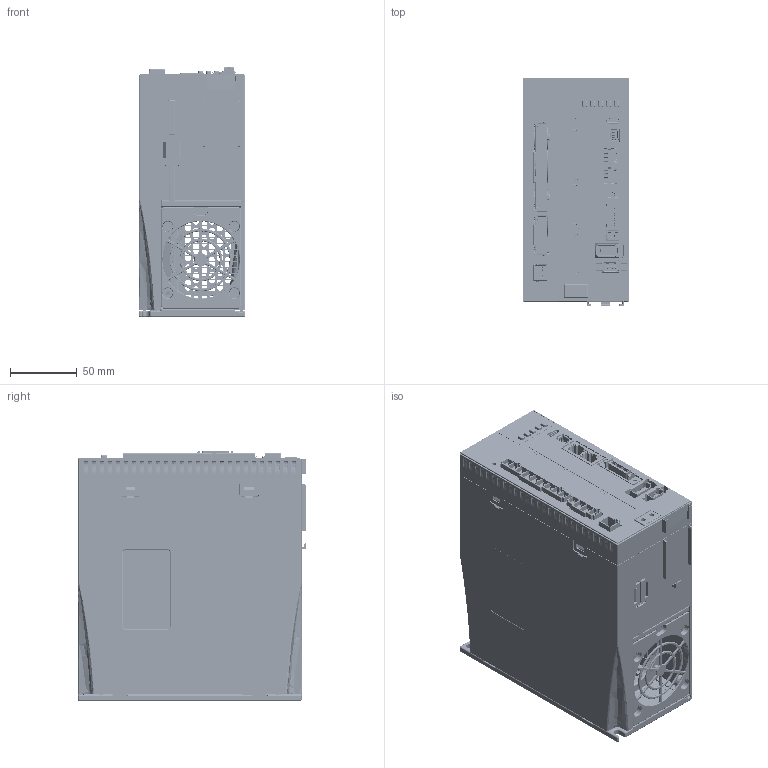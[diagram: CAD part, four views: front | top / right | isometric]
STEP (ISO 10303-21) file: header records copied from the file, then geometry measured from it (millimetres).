
FILE_DESCRIPTION((''),'2;1');
FILE_NAME('ASM0001_L8_2K_ASM_101_ASM','2022-12-14T',('Administrator'),(''),'PRO/ENGINEER BY PARAMETRIC TECHNOLOGY CORPORATION, 2010280','PRO/ENGINEER BY PARAMETRIC TECHNOLOGY CORPORATION, 2010280','');
FILE_SCHEMA(('CONFIG_CONTROL_DESIGN','SHAPE_APPEARANCE_LAYERS_GROUPS'));
Products named in the file (33): DB_L8_2000_70; PCB_L8_2K_24; 9EDGRC_7_5_09P_1000A_2_2; 9EDGRC_7_5_04P_1000A_2_2; CN-5-0-1X2-16-2X18-1_3_1; TR-27X33-1_2_2; TR-27X33-2_2_2; TR-27X33-ALL_ASM_1_ASM_2_ASM; TR-27X33-ALL_ASM_ASM_2_ASM; PCB_POWER_L8_2K_ASM_6_ASM; PCB_L8D2_57_1; USB-J-TP16-3U10_10_1; MINI-IO-0-635-TYPE1_3_1; CON24-RJ45-2-54_8_1; SC-MCR26S90_4_1; SC-MCR10S90_5_1; 1394-6P_4_1; C-RJ10_4_1; 00000_4_1; KEY-PCB_12_1; PCB_L8D2_ASM_66_ASM_2_ASM; PCB_ALL_L8_2K_ASM_5_ASM; FAN_ASM_1_ASM; SRQ_L8_2K_10; GB_FAN_2_8; DRZJ_L8_2K_15; F_L8_2K_20; L8-400-KEY-CAP_30_1; L8-400-YKL_42_1; R_L8_2K_1_39; L_L8_2K_20220726_6; RXLB_80W_50RJ_1; ASM0001_L8_2K_ASM_101_ASM
Assembly tree (33 placements, depth 6):
  ASM0001_L8_2K_ASM_101_ASM
    DB_L8_2000_70
    PCB_ALL_L8_2K_ASM_5_ASM
      PCB_POWER_L8_2K_ASM_6_ASM
        PCB_L8_2K_24
        9EDGRC_7_5_09P_1000A_2_2
        9EDGRC_7_5_04P_1000A_2_2
        CN-5-0-1X2-16-2X18-1_3_1
        TR-27X33-ALL_ASM_ASM_2_ASM
          TR-27X33-ALL_ASM_1_ASM_2_ASM
            TR-27X33-1_2_2  x2
            TR-27X33-2_2_2
      PCB_L8D2_ASM_66_ASM_2_ASM
        PCB_L8D2_57_1
        USB-J-TP16-3U10_10_1
        MINI-IO-0-635-TYPE1_3_1
        CON24-RJ45-2-54_8_1
        SC-MCR26S90_4_1
        SC-MCR10S90_5_1
        1394-6P_4_1
        C-RJ10_4_1
        00000_4_1
        KEY-PCB_12_1
    FAN_ASM_1_ASM
    SRQ_L8_2K_10
    GB_FAN_2_8
    DRZJ_L8_2K_15
    F_L8_2K_20
    L8-400-KEY-CAP_30_1
    L8-400-YKL_42_1
    R_L8_2K_1_39
    L_L8_2K_20220726_6
    RXLB_80W_50RJ_1
Bounding box: 80 x 171.2 x 188 mm (x, y, z)
Volume: 802875.2 mm3; surface area: 636076 mm2
Topology: 26 solids, 44 shells, 13348 faces, 35874 edges, 22658 vertices
Faces by surface type: plane 7950, cylinder 3247, torus 749, bspline 728, sphere 329, cone 277, extrusion 66, revolution 2
Entity records: 549765 total; most frequent: CARTESIAN_POINT 130183, ORIENTED_EDGE 70918, DIRECTION 65452, EDGE_CURVE 35460, VECTOR 24600, LINE 24534, VERTEX_POINT 22602, PRESENTATION_STYLE_ASSIGNMENT 21543
